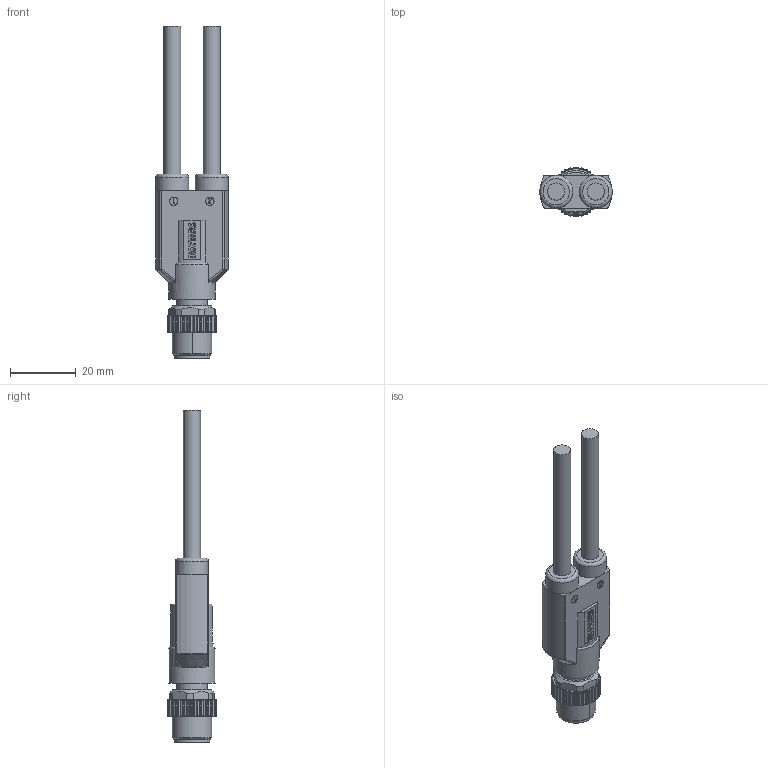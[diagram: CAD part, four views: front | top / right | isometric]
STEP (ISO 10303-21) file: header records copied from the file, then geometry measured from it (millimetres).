
FILE_DESCRIPTION(/* description */ (''),/* implementation_level */ '2;1');
FILE_NAME(/* name */ 'YA-M12-5MS-L.stp',/* time_stamp */ '2024-03-11T15:39:49+08:00',/* author */ (''),/* organization */ (''),/* preprocessor_version */ 'ST-DEVELOPER v16.7',/* originating_system */ 'SIEMENS PLM Software NX 12.0',/* authorisation */ '');
FILE_SCHEMA (('AP203_CONFIGURATION_CONTROLLED_3D_DESIGN_OF_MECHANICAL_PARTS_AND_ASSEMBLIES_MIM_LF { 1 0 10303 403 2 1 2}'));
Length unit declared in the file: millimetre
Products named in the file (1): Admi74A8F74D6ake
Bounding box: 22 x 14.98 x 100.8 mm (x, y, z)
Volume: 11319.1 mm3; surface area: 6739 mm2
Topology: 1 solids, 16 shells, 686 faces, 1873 edges, 1226 vertices
Faces by surface type: plane 232, cylinder 176, extrusion 132, cone 101, bspline 19, sphere 14, torus 12
Full cylindrical faces by diameter (mm): 2.1 x15, 5.2 x2, 9.4 x1, 9.8 x1, 10 x2, 10.8 x1, 14 x1
Entity records: 23998 total; most frequent: CARTESIAN_POINT 7267, ORIENTED_EDGE 3646, DIRECTION 3062, EDGE_CURVE 1823, VERTEX_POINT 1216, AXIS2_PLACEMENT_3D 1065, VECTOR 932, LINE 800
